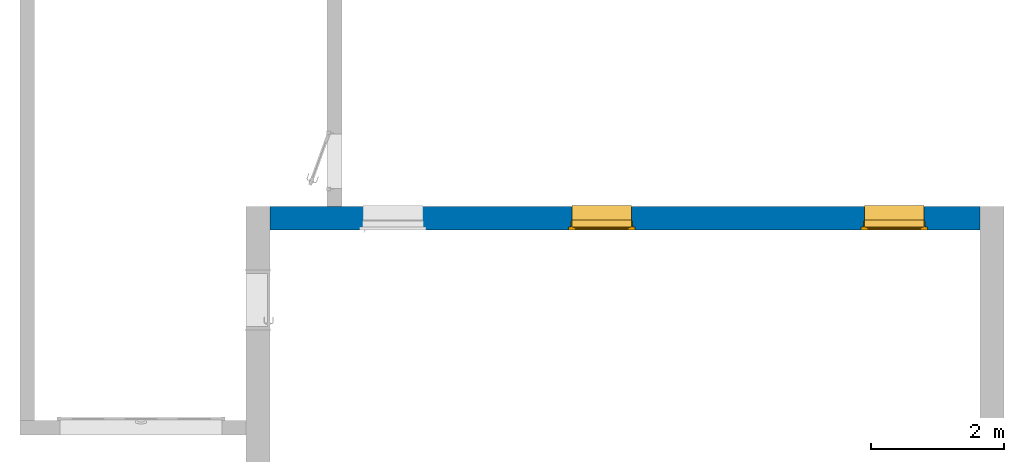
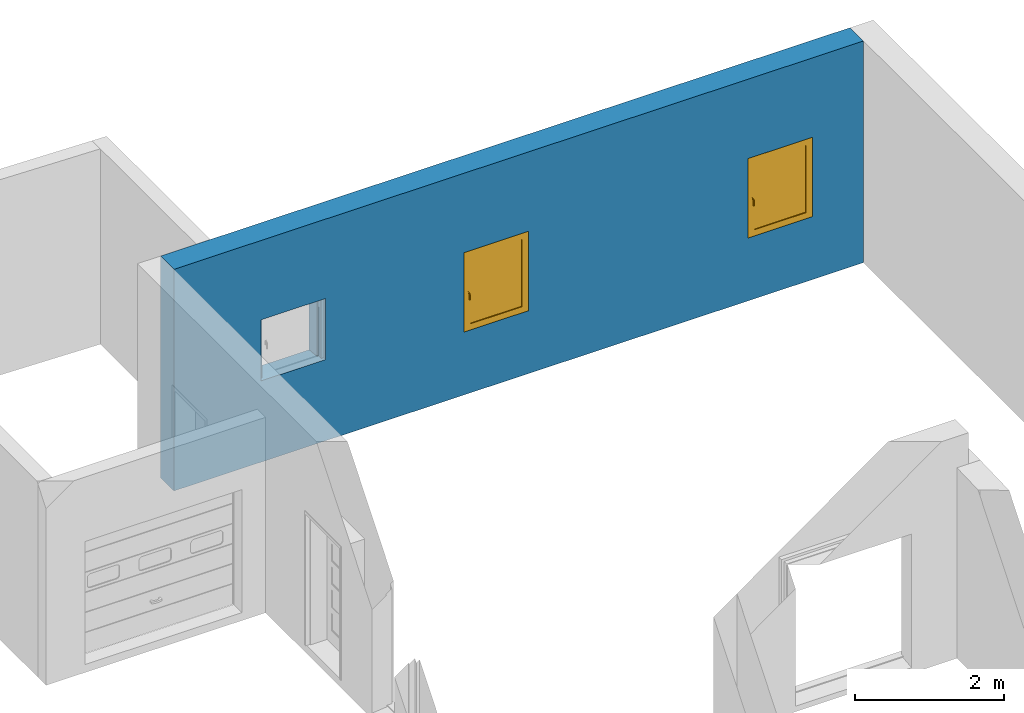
"""IFC2X3 building model written with IfcOpenShell, lengths in centimetres."""

from ifc_helpers import new_model, entity, si_unit, converted_unit, derived_unit, direction, frame, frame_2d, origin, place, context, subcontext, project, spatial, rectangle, extrude, faceted_brep, source, transform, mapped, material, material_list, layer, layer_set, layer_usage, type_object, type_shapes, element, fill, save


model = new_model("IFC2X3")

# Units and contexts
model_context = context("Model", 3, precision=0.001, world=origin(), true_north=direction((6.123031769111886e-17, 1.0)))
body_context = subcontext(model_context, "Body", "Model", "MODEL_VIEW")
ifc_project = project(units=[si_unit("LENGTHUNIT", "METRE", prefix="CENTI"), si_unit("AREAUNIT", "SQUARE_METRE"), si_unit("VOLUMEUNIT", "CUBIC_METRE"), converted_unit("PLANEANGLEUNIT", "DEGREE", entity("IfcRatioMeasure", 0.017453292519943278), si_unit("PLANEANGLEUNIT", "RADIAN"), dimensions=[0, 0, 0, 0, 0, 0, 0]), si_unit("MASSUNIT", "GRAM", prefix="KILO"), derived_unit("MASSDENSITYUNIT", [(si_unit("MASSUNIT", "GRAM", prefix="KILO"), 1), (si_unit("LENGTHUNIT", "METRE"), -3)]), derived_unit("MOMENTOFINERTIAUNIT", [(si_unit("LENGTHUNIT", "METRE"), 4)]), si_unit("TIMEUNIT", "SECOND"), si_unit("FREQUENCYUNIT", "HERTZ"), si_unit("THERMODYNAMICTEMPERATUREUNIT", "DEGREE_CELSIUS"), derived_unit("THERMALTRANSMITTANCEUNIT", [(si_unit("MASSUNIT", "GRAM", prefix="KILO"), 1), (si_unit("THERMODYNAMICTEMPERATUREUNIT", "KELVIN"), -1), (si_unit("TIMEUNIT", "SECOND"), -3)]), derived_unit("THERMALCONDUCTANCEUNIT", [(si_unit("MASSUNIT", "GRAM", prefix="KILO"), 1), (si_unit("LENGTHUNIT", "METRE"), 1), (si_unit("THERMODYNAMICTEMPERATUREUNIT", "KELVIN"), -1), (si_unit("TIMEUNIT", "SECOND"), -3)]), derived_unit("VOLUMETRICFLOWRATEUNIT", [(si_unit("LENGTHUNIT", "METRE"), 3), (si_unit("TIMEUNIT", "SECOND"), -1)]), derived_unit("MASSFLOWRATEUNIT", [(si_unit("MASSUNIT", "GRAM", prefix="KILO"), 1), (si_unit("TIMEUNIT", "SECOND"), -1)]), derived_unit("ROTATIONALFREQUENCYUNIT", [(si_unit("TIMEUNIT", "SECOND"), -1)]), si_unit("ELECTRICCURRENTUNIT", "AMPERE"), si_unit("ELECTRICVOLTAGEUNIT", "VOLT"), si_unit("POWERUNIT", "WATT"), si_unit("FORCEUNIT", "NEWTON", prefix="KILO"), si_unit("ILLUMINANCEUNIT", "LUX"), si_unit("LUMINOUSFLUXUNIT", "LUMEN"), si_unit("LUMINOUSINTENSITYUNIT", "CANDELA"), derived_unit("USERDEFINED", [(si_unit("MASSUNIT", "GRAM", prefix="KILO"), -1), (si_unit("LENGTHUNIT", "METRE"), -2), (si_unit("TIMEUNIT", "SECOND"), 3), (si_unit("LUMINOUSFLUXUNIT", "LUMEN"), 1)]), derived_unit("USERDEFINED", [(si_unit("MASSUNIT", "GRAM", prefix="KILO"), 1), (si_unit("LENGTHUNIT", "METRE"), 3), (si_unit("TIMEUNIT", "SECOND"), -3), (si_unit("ELECTRICCURRENTUNIT", "AMPERE"), -2)]), derived_unit("USERDEFINED", [(si_unit("LENGTHUNIT", "METRE"), 2), (si_unit("TIMEUNIT", "SECOND"), -2)]), derived_unit("SOUNDPOWERUNIT", [(si_unit("MASSUNIT", "GRAM", prefix="KILO"), 1), (si_unit("LENGTHUNIT", "METRE"), 2), (si_unit("TIMEUNIT", "SECOND"), -3)]), derived_unit("SOUNDPRESSUREUNIT", [(si_unit("MASSUNIT", "GRAM", prefix="KILO"), 1), (si_unit("LENGTHUNIT", "METRE"), -1), (si_unit("TIMEUNIT", "SECOND"), -2)]), derived_unit("LINEARVELOCITYUNIT", [(si_unit("LENGTHUNIT", "METRE"), 1), (si_unit("TIMEUNIT", "SECOND"), -1)]), si_unit("PRESSUREUNIT", "PASCAL"), derived_unit("USERDEFINED", [(si_unit("LENGTHUNIT", "METRE"), -2), (si_unit("MASSUNIT", "GRAM", prefix="KILO"), 1), (si_unit("TIMEUNIT", "SECOND"), -2)]), derived_unit("LINEARFORCEUNIT", [(si_unit("MASSUNIT", "GRAM", prefix="KILO"), 1), (si_unit("LENGTHUNIT", "METRE"), 1), (si_unit("TIMEUNIT", "SECOND"), -2), (si_unit("LENGTHUNIT", "METRE"), -1)]), derived_unit("PLANARFORCEUNIT", [(si_unit("MASSUNIT", "GRAM", prefix="KILO"), 1), (si_unit("LENGTHUNIT", "METRE"), 1), (si_unit("TIMEUNIT", "SECOND"), -2), (si_unit("LENGTHUNIT", "METRE"), -2)]), derived_unit("SPECIFICHEATCAPACITYUNIT", [(si_unit("LENGTHUNIT", "METRE"), 2), (si_unit("TIMEUNIT", "SECOND"), -2), (si_unit("THERMODYNAMICTEMPERATUREUNIT", "KELVIN"), -1)]), derived_unit("VAPORPERMEABILITYUNIT", [(si_unit("TIMEUNIT", "SECOND"), 1), (si_unit("LENGTHUNIT", "METRE"), -1)]), derived_unit("DYNAMICVISCOSITYUNIT", [(si_unit("MASSUNIT", "GRAM", prefix="KILO"), 1), (si_unit("LENGTHUNIT", "METRE"), -1), (si_unit("TIMEUNIT", "SECOND"), -1)]), derived_unit("THERMALEXPANSIONCOEFFICIENTUNIT", [(si_unit("THERMODYNAMICTEMPERATUREUNIT", "KELVIN"), -1)])], contexts=[model_context])

# Site, building, storey
site_placement = place(None, origin())
site = spatial("IfcSite", under=ifc_project, at=site_placement, Name="Default", CompositionType="ELEMENT")
building_placement = place(site_placement, origin())
building = spatial("IfcBuilding", under=site, at=building_placement, CompositionType="ELEMENT")
storey_1_placement = place(building_placement, frame((0.0, 0.0, -13.0)))
storey_1 = spatial("IfcBuildingStorey", under=building, at=storey_1_placement, Name="0_-0.13", CompositionType="ELEMENT", Elevation=-13.000000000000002)

# Wall, openings
ifc_material_1 = material(Name="Maçonnerie - Enduit")
ifc_layer_1 = layer(ifc_material_1, 2.0)
ifc_material_2 = material(Name="Maçonnerie - Béton")
ifc_layer_2 = layer(ifc_material_2, 20.0)
ifc_material_3 = material(Name="Mur par défaut")
ifc_layer_3 = layer(ifc_material_3, 14.0)
ifc_layer_set = layer_set([ifc_layer_1, ifc_layer_2, ifc_layer_3], Name="Mur de base:Mur extérieur 36cm")
ifc_layer_usage = layer_usage(ifc_layer_set, "AXIS2", "POSITIVE", -18.0)
wall_type = type_object("IfcWallType", Name="Mur de base:Mur extérieur 36cm", PredefinedType="STANDARD", material=ifc_layer_set)
wall_placement = place(storey_1_placement, frame((381.93155623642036, 360.64664587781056, 0.0), z_axis=(0.0, 0.0, 1.0), x_axis=(-1.0, 0.0, 0.0)))
wall = element("IfcWallStandardCase", 1, at=wall_placement, inside=storey_1, type_object=wall_type, material=ifc_layer_usage, Name="Mur de base:Mur extérieur 36cm", ObjectType="Mur de base:Mur extérieur 36cm", context=body_context, shape_type="SweptSolid", body=[
    extrude(rectangle(XDim=1068.0000000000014, YDim=36.00000000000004, at=frame_2d((534.0000000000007, 5.329070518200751e-15), x_axis=(-1.0, 0.0))), origin(), (0.0, 0.0, 1.0), 363.0000000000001),
])
opening_1_placement = place(wall_placement, origin())
element("IfcOpeningElement", 2, at=opening_1_placement, cuts=wall, Name="Mur de base:Mur extérieur 36cm", ObjectType="Opening", context=body_context, shape_type="SweptSolid", body=[
    extrude(rectangle(XDim=249.9999999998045, YDim=6.999999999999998, at=frame_2d((-3.3306690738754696e-15, 0.0), x_axis=(0.0, 1.0))), frame((331.50000000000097, 18.0, 138.0), z_axis=(0.0, 1.0, 0.0), x_axis=(-1.0, 0.0, 0.0)), (0.0, 0.0, 1.0), 146.0),
])
opening_2_placement = place(wall_placement, frame((179.0, 50.0, 95.61416282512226), z_axis=(0.0, 0.0, 1.0), x_axis=(-1.0, 0.0, 0.0)))
opening_2 = element("IfcOpeningElement", 3, at=opening_2_placement, cuts=wall, Name="Mur de base:Mur extérieur 36cm", ObjectType="Opening", context=body_context, shape_type="Brep", body=[
    faceted_brep([(5.0, 44.0, 7.385837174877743), (5.0, 46.0, 7.385837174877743), (5.0, 46.0, 132.38583717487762), (5.0, 100.0, 132.38583717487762), (5.0, 100.0, 0.0), (5.0, 44.0, 5.885837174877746), (95.0, 0.0, 7.385837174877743), (95.0, 32.0, 7.385837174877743), (95.0, 32.0, 132.38583717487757), (95.0, 0.0, 132.38583717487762), (5.0, 0.0, 7.385837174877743), (5.0, 32.0, 7.385837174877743), (0.0, 32.0, 7.385837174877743), (0.0, 37.0, 7.385837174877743), (4.0, 37.0, 7.385837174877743), (4.0, 46.0, 7.385837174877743), (95.0, 44.0, 7.385837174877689), (95.0, 46.0, 7.385837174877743), (96.0, 46.0, 7.385837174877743), (96.0, 37.0, 7.385837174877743), (100.0, 37.0, 7.385837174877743), (100.0, 32.0, 7.385837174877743), (5.0, 0.0, 132.38583717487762), (95.0, 46.0, 132.38583717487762), (95.0, 100.0, 132.38583717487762), (95.0, 100.0, 0.0), (95.0, 44.0, 5.885837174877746), (0.0, 32.0, 137.3858371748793), (0.0, 37.0, 137.3858371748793), (100.0, 37.0, 137.3858371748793), (96.0, 37.0, 133.38583717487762), (4.0, 37.0, 133.38583717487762), (4.0, 46.0, 133.38583717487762), (96.0, 46.0, 133.38583717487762), (5.0, 32.0, 132.38583717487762), (100.0, 32.0, 137.3858371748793)], [[[0, 1, 2, 3, 4, 5]], [[6, 7, 8, 9]], [[10, 11, 12, 13, 14, 15, 1, 0, 16, 17, 18, 19, 20, 21, 7, 6]], [[10, 6, 9, 22]], [[3, 2, 23, 24]], [[3, 24, 25, 4]], [[4, 25, 26, 5]], [[5, 26, 16, 0]], [[12, 27, 28, 13]], [[13, 28, 29, 20, 19, 30, 31, 14]], [[14, 31, 32, 15]], [[15, 32, 33, 18, 17, 23, 2, 1]], [[11, 34, 8, 7, 21, 35, 27, 12]], [[27, 35, 29, 28]], [[30, 33, 32, 31]], [[29, 35, 21, 20]], [[19, 18, 33, 30]], [[9, 8, 34, 22]], [[24, 23, 17, 16, 26, 25]], [[22, 34, 11, 10]]]),
])
opening_3_placement = place(wall_placement, frame((619.0, 50.0, 95.61416282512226), z_axis=(0.0, 0.0, 1.0), x_axis=(-1.0, 0.0, 0.0)))
opening_3 = element("IfcOpeningElement", 4, at=opening_3_placement, cuts=wall, Name="Mur de base:Mur extérieur 36cm", ObjectType="Opening", context=body_context, shape_type="Brep", body=[
    faceted_brep([(5.0, 44.0, 7.385837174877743), (5.0, 46.0, 7.385837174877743), (5.0, 46.0, 132.38583717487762), (5.0, 100.0, 132.38583717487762), (5.0, 100.0, 0.0), (5.0, 44.0, 5.885837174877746), (95.0, 0.0, 7.385837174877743), (95.0, 32.0, 7.385837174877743), (95.0, 32.0, 132.38583717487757), (95.0, 0.0, 132.38583717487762), (5.0, 0.0, 7.385837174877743), (5.0, 32.0, 7.385837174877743), (0.0, 32.0, 7.385837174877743), (0.0, 37.0, 7.385837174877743), (4.0, 37.0, 7.385837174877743), (4.0, 46.0, 7.385837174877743), (95.0, 44.0, 7.385837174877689), (95.0, 46.0, 7.385837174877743), (96.0, 46.0, 7.385837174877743), (96.0, 37.0, 7.385837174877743), (100.0, 37.0, 7.385837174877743), (100.0, 32.0, 7.385837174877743), (5.0, 0.0, 132.38583717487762), (95.0, 46.0, 132.38583717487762), (95.0, 100.0, 132.38583717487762), (95.0, 100.0, 0.0), (95.0, 44.0, 5.885837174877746), (0.0, 32.0, 137.3858371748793), (0.0, 37.0, 137.3858371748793), (100.0, 37.0, 137.3858371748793), (96.0, 37.0, 133.38583717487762), (4.0, 37.0, 133.38583717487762), (4.0, 46.0, 133.38583717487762), (96.0, 46.0, 133.38583717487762), (5.0, 32.0, 132.38583717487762), (100.0, 32.0, 137.3858371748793)], [[[0, 1, 2, 3, 4, 5]], [[6, 7, 8, 9]], [[10, 11, 12, 13, 14, 15, 1, 0, 16, 17, 18, 19, 20, 21, 7, 6]], [[10, 6, 9, 22]], [[3, 2, 23, 24]], [[3, 24, 25, 4]], [[4, 25, 26, 5]], [[5, 26, 16, 0]], [[12, 27, 28, 13]], [[13, 28, 29, 20, 19, 30, 31, 14]], [[14, 31, 32, 15]], [[15, 32, 33, 18, 17, 23, 2, 1]], [[11, 34, 8, 7, 21, 35, 27, 12]], [[27, 35, 29, 28]], [[30, 33, 32, 31]], [[29, 35, 21, 20]], [[19, 18, 33, 30]], [[9, 8, 34, 22]], [[24, 23, 17, 16, 26, 25]], [[22, 34, 11, 10]]]),
])
opening_4_placement = place(wall_placement, frame((933.0, 50.0, 125.61416282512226), z_axis=(0.0, 0.0, 1.0), x_axis=(-1.0, 0.0, 0.0)))
element("IfcOpeningElement", 5, at=opening_4_placement, cuts=wall, Name="Mur de base:Mur extérieur 36cm", ObjectType="Opening", context=body_context, shape_type="Brep", body=[
    faceted_brep([(5.0, 44.0, 7.385837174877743), (5.0, 46.0, 7.385837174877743), (5.0, 46.0, 102.38583717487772), (5.0, 100.0, 102.38583717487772), (5.0, 100.0, 0.0), (5.0, 44.0, 5.885837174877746), (95.0, 0.0, 7.385837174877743), (95.0, 32.0, 7.385837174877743), (95.0, 32.0, 102.38583717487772), (95.0, 0.0, 102.38583717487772), (5.0, 0.0, 7.385837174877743), (5.0, 32.0, 7.385837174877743), (0.0, 32.0, 7.385837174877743), (0.0, 37.0, 7.385837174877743), (4.0, 37.0, 7.385837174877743), (4.0, 46.0, 7.385837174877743), (95.0, 44.0, 7.385837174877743), (95.0, 46.0, 7.385837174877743), (96.0, 46.0, 7.385837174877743), (96.0, 37.0, 7.385837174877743), (100.0, 37.0, 7.385837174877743), (100.0, 32.0, 7.385837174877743), (5.0, 0.0, 102.38583717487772), (95.0, 46.0, 102.38583717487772), (95.0, 100.0, 102.38583717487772), (95.0, 100.0, 0.0), (95.0, 44.0, 5.885837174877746), (0.0, 32.0, 107.3858371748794), (0.0, 37.0, 107.3858371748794), (100.0, 37.0, 107.3858371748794), (96.0, 37.0, 103.38583717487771), (4.0, 37.0, 103.38583717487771), (4.0, 46.0, 103.38583717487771), (96.0, 46.0, 103.38583717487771), (5.0, 32.0, 102.38583717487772), (100.0, 32.0, 107.3858371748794)], [[[0, 1, 2, 3, 4, 5]], [[6, 7, 8, 9]], [[10, 11, 12, 13, 14, 15, 1, 0, 16, 17, 18, 19, 20, 21, 7, 6]], [[10, 6, 9, 22]], [[3, 2, 23, 24]], [[3, 24, 25, 4]], [[4, 25, 26, 5]], [[5, 26, 16, 0]], [[12, 27, 28, 13]], [[13, 28, 29, 20, 19, 30, 31, 14]], [[14, 31, 32, 15]], [[15, 32, 33, 18, 17, 23, 2, 1]], [[11, 34, 8, 7, 21, 35, 27, 12]], [[27, 35, 29, 28]], [[30, 33, 32, 31]], [[29, 35, 21, 20]], [[19, 18, 33, 30]], [[9, 8, 34, 22]], [[24, 23, 17, 16, 26, 25]], [[22, 34, 11, 10]]]),
])

# Storey
storey_2_placement = place(building_placement, origin())
storey_2 = spatial("IfcBuildingStorey", under=building, at=storey_2_placement, Name="1_Rez-de-chaussée", CompositionType="ELEMENT", Elevation=0.0)

# Window
ifc_material_4 = material(Name="Fenêtre - Poignée")
ifc_material_5 = material(Name="Fenêtre - Appui")
ifc_material_6 = material(Name="Fenêtre - Vitrage")
ifc_material_7 = material(Name="Fenêtre - Cadre")
ifc_material_list = material_list([ifc_material_4, ifc_material_5, ifc_material_6, ifc_material_7])
window_style = type_object("IfcWindowStyle", Name="1 Vantail - Droit:0.90 m x 1.25 m", ConstructionType="NOTDEFINED", OperationType="NOTDEFINED", ParameterTakesPrecedence=False, Sizeable=False, material=ifc_material_list)
shared_shape = source(origin(), body_context, "Body", "Brep", [
    faceted_brep([(8.064600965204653, 31.39999999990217, 69.58923009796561), (8.203392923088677, 31.39999999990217, 69.45043814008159), (8.203392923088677, 31.39999999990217, 68.31906729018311), (8.066769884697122, 31.39999999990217, 68.18244425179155), (6.933230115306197, 31.39999999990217, 68.18244425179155), (6.796607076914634, 31.39999999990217, 68.31906729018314), (6.796607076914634, 31.39999999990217, 69.45043814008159), (6.935399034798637, 31.39999999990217, 69.58923009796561), (8.064600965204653, 30.10864511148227, 69.58923009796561), (8.203392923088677, 30.16613462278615, 69.45043814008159), (8.203392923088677, 28.83539903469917, 68.11970255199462), (8.203392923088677, 28.835399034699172, 59.3858371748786), (8.203392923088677, 29.966769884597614, 59.3858371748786), (8.203392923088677, 29.966769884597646, 67.65107340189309), (8.203392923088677, 30.634763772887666, 68.31906729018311), (8.066769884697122, 30.69135488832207, 68.18244425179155), (6.933230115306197, 30.69135488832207, 68.18244425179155), (6.796607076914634, 30.634763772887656, 68.31906729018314), (6.796607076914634, 29.9667698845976, 67.6510734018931), (6.796607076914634, 29.9667698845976, 59.3858371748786), (6.796607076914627, 28.835399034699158, 59.3858371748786), (6.796607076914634, 28.835399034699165, 68.11970255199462), (6.796607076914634, 30.16613462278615, 69.45043814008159), (6.935399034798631, 30.10864511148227, 69.58923009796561), (8.064600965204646, 28.696607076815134, 68.17719206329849), (8.066769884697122, 30.103392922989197, 67.59448228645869), (6.933230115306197, 30.103392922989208, 67.59448228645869), (6.935399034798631, 28.696607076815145, 68.17719206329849), (8.064600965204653, 28.696607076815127, 59.3858371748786), (6.935399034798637, 28.696607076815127, 59.3858371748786), (6.933230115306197, 30.103392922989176, 59.3858371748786), (8.066769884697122, 30.103392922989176, 59.3858371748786)], [[[0, 1, 2, 3, 4, 5, 6, 7]], [[1, 0, 8, 9]], [[2, 1, 9, 10, 11, 12, 13, 14]], [[3, 2, 14, 15]], [[4, 3, 15, 16]], [[5, 4, 16, 17]], [[6, 5, 17, 18, 19, 20, 21, 22]], [[7, 6, 22, 23]], [[0, 7, 23, 8]], [[9, 8, 24, 10]], [[15, 14, 13, 25]], [[16, 15, 25, 26]], [[17, 16, 26, 18]], [[23, 22, 21, 27]], [[8, 23, 27, 24]], [[28, 29, 20, 19, 30, 31, 12, 11]], [[10, 24, 28, 11]], [[25, 13, 12, 31]], [[26, 25, 31, 30]], [[18, 26, 30, 19]], [[27, 21, 20, 29]], [[24, 27, 29, 28]]]),
    faceted_brep([(8.200000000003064, 31.400000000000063, 71.38583717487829), (6.80000000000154, 31.400000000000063, 71.38583717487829), (6.300000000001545, 31.400000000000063, 70.8858371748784), (6.300000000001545, 31.400000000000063, 63.88583717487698), (6.8000000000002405, 31.400000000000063, 63.38583717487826), (8.200000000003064, 31.400000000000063, 63.38583717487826), (8.70000000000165, 31.400000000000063, 63.885837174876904), (8.70000000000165, 31.400000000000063, 70.8858371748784), (8.200000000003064, 32.0, 71.38583717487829), (8.70000000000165, 32.0, 70.8858371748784), (8.70000000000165, 32.0, 63.885837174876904), (8.200000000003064, 32.0, 63.38583717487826), (6.8000000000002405, 32.0, 63.38583717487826), (6.300000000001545, 32.0, 63.88583717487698), (6.300000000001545, 32.0, 70.8858371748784), (6.80000000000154, 32.0, 71.38583717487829)], [[[0, 1, 2, 3, 4, 5, 6, 7]], [[8, 9, 10, 11, 12, 13, 14, 15]], [[1, 0, 8, 15]], [[2, 1, 15, 14]], [[3, 2, 14, 13]], [[4, 3, 13, 12]], [[5, 4, 12, 11]], [[6, 5, 11, 10]], [[7, 6, 10, 9]], [[0, 7, 9, 8]]]),
    faceted_brep([(95.0, 69.50000000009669, 3.731200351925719), (95.0, 44.5000000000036, 6.3588062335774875), (95.0, 44.5000000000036, 7.38583717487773), (95.0, 44.0, 7.38583717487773), (95.0, 44.0, 5.885837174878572), (95.0, 69.0, 3.2582312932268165), (95.0, 69.0, 2.2281808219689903), (95.0, 69.5000000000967, 2.1756287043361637), (5.0, 69.5000000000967, 3.731200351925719), (5.0, 69.5000000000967, 2.1756287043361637), (5.0, 69.0, 2.2281808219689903), (5.0, 69.0, 3.2582312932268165), (5.0, 44.0, 5.885837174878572), (5.0, 44.0, 7.38583717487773), (5.0, 44.50000000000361, 7.38583717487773), (5.0, 44.50000000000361, 6.3588062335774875)], [[[0, 1, 2, 3, 4, 5, 6, 7]], [[8, 9, 10, 11, 12, 13, 14, 15]], [[1, 0, 8, 15]], [[2, 1, 15, 14]], [[3, 2, 14, 13]], [[4, 3, 13, 12]], [[5, 4, 12, 11]], [[6, 5, 11, 10]], [[7, 6, 10, 9]], [[0, 7, 9, 8]]]),
    faceted_brep([(5.0, 69.50000000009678, 3.8737928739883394), (5.0, 69.50000000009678, 3.731200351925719), (5.0, 44.50000000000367, 6.3588062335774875), (5.0, 44.50000000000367, 6.861560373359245), (5.0, 69.14181138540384, 4.271601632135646), (5.0, 69.39725793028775, 4.14144511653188), (5.500000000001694, 44.50000000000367, 6.861560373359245), (5.500000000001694, 44.50000000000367, 6.3588062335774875), (5.500000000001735, 69.50000000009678, 3.731200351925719), (5.500000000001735, 69.50000000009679, 3.8737928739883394), (5.500000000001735, 69.39725793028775, 4.14144511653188), (5.500000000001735, 69.14181138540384, 4.271601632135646)], [[[0, 1, 2, 3, 4, 5]], [[6, 7, 8, 9, 10, 11]], [[2, 1, 8, 7]], [[3, 2, 7, 6]], [[4, 3, 6, 11]], [[4, 11, 10, 5]], [[10, 9, 0, 5]], [[1, 0, 9, 8]]]),
    faceted_brep([(94.50000000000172, 69.50000000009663, 3.8737928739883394), (94.50000000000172, 69.50000000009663, 3.731200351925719), (94.50000000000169, 44.50000000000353, 6.3588062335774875), (94.50000000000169, 44.50000000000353, 6.861560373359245), (94.50000000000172, 69.14181138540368, 4.271601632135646), (94.50000000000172, 69.39725793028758, 4.14144511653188), (95.0, 44.50000000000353, 6.861560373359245), (95.0, 44.50000000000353, 6.3588062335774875), (95.0, 69.50000000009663, 3.731200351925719), (95.0, 69.50000000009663, 3.8737928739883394), (95.0, 69.39725793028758, 4.14144511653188), (95.0, 69.14181138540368, 4.271601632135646)], [[[0, 1, 2, 3, 4, 5]], [[6, 7, 8, 9, 10, 11]], [[2, 1, 8, 7]], [[3, 2, 7, 6]], [[4, 3, 6, 11]], [[4, 11, 10, 5]], [[10, 9, 0, 5]], [[1, 0, 9, 8]]]),
    faceted_brep([(10.0, 34.59999999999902, 17.385837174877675), (10.0, 34.59999999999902, 127.38583717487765), (90.0, 34.599999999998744, 127.38583717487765), (90.0, 34.599999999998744, 17.385837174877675), (10.0, 33.39999999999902, 17.385837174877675), (10.0, 33.39999999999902, 127.38583717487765), (90.0, 33.39999999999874, 127.38583717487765), (90.0, 33.39999999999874, 17.385837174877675)], [[[0, 1, 2, 3]], [[1, 0, 4, 5]], [[3, 2, 6, 7]], [[0, 3, 7, 4]], [[4, 7, 6, 5]], [[2, 1, 5, 6]]]),
    faceted_brep([(10.0, 36.0, 127.38583717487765), (10.0, 32.0, 127.38583717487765), (10.0, 32.0, 17.385837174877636), (10.0, 36.0, 17.38583717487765), (90.0, 32.0, 17.38583717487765), (90.0, 36.0, 17.385837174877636), (90.0, 32.0, 127.38583717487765), (95.0, 32.0, 12.385837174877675), (95.0, 32.0, 132.38583717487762), (5.0, 32.0, 132.3858371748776), (5.0, 32.0, 12.385837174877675), (90.0, 36.0, 127.38583717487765), (5.0, 36.0, 12.385837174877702), (5.0, 36.0, 132.3858371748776), (95.0, 36.0, 132.3858371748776), (95.0, 36.0, 12.38583717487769)], [[[0, 1, 2, 3]], [[3, 2, 4, 5]], [[2, 1, 6, 4], [7, 8, 9, 10]], [[5, 4, 6, 11]], [[5, 11, 0, 3], [12, 13, 14, 15]], [[9, 13, 12, 10]], [[10, 12, 15, 7]], [[7, 15, 14, 8]], [[11, 6, 1, 0]], [[8, 14, 13, 9]]], outer=[[True], [True], [False, True], [True], [False, True], [True], [True], [True], [True], [True]]),
    faceted_brep([(0.0, 32.0, 7.38583717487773), (0.0, 37.0, 7.38583717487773), (5.0, 37.0, 7.38583717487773), (5.0, 46.0, 7.38583717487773), (95.0, 46.0, 7.385837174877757), (95.0, 37.0, 7.38583717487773), (100.0, 37.0, 7.38583717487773), (100.0, 32.0, 7.38583717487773), (0.0, 32.0, 137.38583717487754), (0.0, 37.0, 137.38583717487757), (100.0, 37.0, 137.38583717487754), (95.0, 37.0, 11.323451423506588), (5.0, 37.0, 11.323451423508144), (6.500000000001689, 37.0, 130.8858371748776), (6.500000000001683, 37.0, 13.885837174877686), (93.50000000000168, 37.0, 13.885837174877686), (93.50000000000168, 37.0, 130.8858371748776), (5.0, 47.0, 8.643959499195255), (5.0, 47.0, 6.885837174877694), (5.0, 46.0, 6.885837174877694), (95.0, 46.0, 6.885837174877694), (95.0, 47.0, 6.885837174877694), (95.0, 47.0, 8.643959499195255), (100.0, 32.0, 137.38583717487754), (95.0, 32.0, 132.3858371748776), (95.0, 32.0, 12.38583717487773), (5.0, 32.0, 12.38583717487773), (5.0, 32.0, 132.3858371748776), (6.500000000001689, 36.0, 130.8858371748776), (6.500000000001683, 36.0, 13.885837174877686), (93.50000000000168, 36.0, 13.885837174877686), (93.50000000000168, 36.0, 130.8858371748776), (95.0, 36.0, 132.3858371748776), (5.0, 36.0, 132.3858371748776), (5.0, 36.0, 12.38583717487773), (95.0, 36.0, 12.38583717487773)], [[[0, 1, 2, 3, 4, 5, 6, 7]], [[1, 0, 8, 9]], [[1, 9, 10, 6, 5, 11, 12, 2], [13, 14, 15, 16]], [[12, 17, 18, 19, 3, 2]], [[3, 19, 20, 4]], [[4, 20, 21, 22, 11, 5]], [[6, 10, 23, 7]], [[0, 7, 23, 8], [24, 25, 26, 27]], [[13, 28, 29, 14]], [[29, 30, 15, 14]], [[31, 16, 15, 30]], [[17, 12, 11, 22]], [[32, 33, 34, 35], [28, 31, 30, 29]], [[34, 33, 27, 26]], [[26, 25, 35, 34]], [[24, 32, 35, 25]], [[18, 17, 22, 21]], [[19, 18, 21, 20]], [[13, 16, 31, 28]], [[33, 32, 24, 27]], [[10, 9, 8, 23]]]),
    faceted_brep([(5.0, 46.0, 7.38583717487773), (5.0, 37.0, 7.38583717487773), (4.0, 37.0, 7.38583717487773), (4.0, 46.0, 7.38583717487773), (5.0, 46.0, 132.3858371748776), (5.0, 37.0, 132.3858371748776), (95.0, 37.0, 132.3858371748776), (95.0, 37.0, 7.385837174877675), (96.0, 37.0, 7.38583717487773), (96.0, 37.0, 133.3858371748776), (4.0, 37.0, 133.3858371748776), (4.0, 46.0, 133.3858371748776), (96.0, 46.0, 133.3858371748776), (96.0, 46.0, 7.385837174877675), (95.0, 46.0, 7.38583717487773), (95.0, 46.0, 132.3858371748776)], [[[0, 1, 2, 3]], [[1, 0, 4, 5]], [[2, 1, 5, 6, 7, 8, 9, 10]], [[3, 2, 10, 11]], [[0, 3, 11, 12, 13, 14, 15, 4]], [[6, 15, 14, 7]], [[14, 13, 8, 7]], [[12, 9, 8, 13]], [[5, 4, 15, 6]], [[11, 10, 9, 12]]]),
])
type_shapes(window_style, [shared_shape])
window_1_placement = place(opening_2_placement, origin())
window_1 = element("IfcWindow", 6, at=window_1_placement, inside=storey_2, type_object=window_style, material=ifc_material_list, Name="1 Vantail - Droit:0.90 m x 1.25 m", ObjectType="1 Vantail - Droit:0.90 m x 1.25 m", OverallHeight=138.00000000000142, OverallWidth=100.00000000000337, context=body_context, shape_type="MappedRepresentation", body=[
    mapped(shared_shape, transform((0.0, 0.0, 0.0), scale=1.0)),
])

fill(opening_2, window_1)

window_2_placement = place(opening_3_placement, origin())
window_2 = element("IfcWindow", 7, at=window_2_placement, inside=storey_2, type_object=window_style, material=ifc_material_list, Name="1 Vantail - Droit:0.90 m x 1.25 m", ObjectType="1 Vantail - Droit:0.90 m x 1.25 m", OverallHeight=138.00000000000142, OverallWidth=100.00000000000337, context=body_context, shape_type="MappedRepresentation", body=[
    mapped(shared_shape, transform((0.0, 0.0, 0.0), scale=1.0)),
])

fill(opening_3, window_2)

save(model, "model.ifc")
